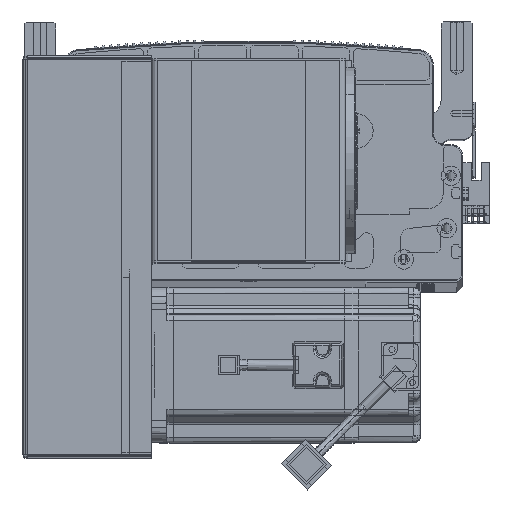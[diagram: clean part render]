
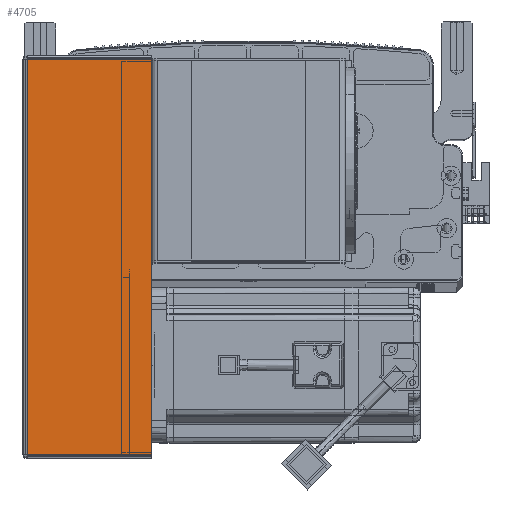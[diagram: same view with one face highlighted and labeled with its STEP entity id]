
A CAD part, top view. The second image highlights one B-rep face of the part: STEP entity #4705.
In plain terms, the highlighted planar face has unit normal (0, 0, 1) as drawn and (0, -1, 0) by its records, which use the part's own axes.
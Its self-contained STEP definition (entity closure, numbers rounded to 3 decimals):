
#4705 = ADVANCED_FACE ( 'NONE', ( #79902 ), #14011, .F. ) ;
#6350 = CARTESIAN_POINT ( 'NONE',  ( 64.5, -1.5, -203.293 ) ) ;
#7840 = VECTOR ( 'NONE', #82776, 1000. ) ;
#9346 = AXIS2_PLACEMENT_3D ( 'NONE', #21590, #81296, #50588 ) ;
#14011 = PLANE ( 'NONE',  #9346 ) ;
#14873 = CARTESIAN_POINT ( 'NONE',  ( 64.5, -1.5, 0. ) ) ;
#16810 = DIRECTION ( 'NONE',  ( 0., 0., 1. ) ) ;
#21590 = CARTESIAN_POINT ( 'NONE',  ( 0., -1.5, 0. ) ) ;
#23402 = ORIENTED_EDGE ( 'NONE', *, *, #33105, .T. ) ;
#23936 = EDGE_LOOP ( 'NONE', ( #65685, #60254, #23402, #79173 ) ) ;
#24358 = CARTESIAN_POINT ( 'NONE',  ( 0.737, -1.5, 0. ) ) ;
#33105 = EDGE_CURVE ( 'NONE', #40129, #86113, #92862, .T. ) ;
#40129 = VERTEX_POINT ( 'NONE', #6350 ) ;
#46189 = VECTOR ( 'NONE', #61890, 1000. ) ;
#46450 = CARTESIAN_POINT ( 'NONE',  ( 0., -1.5, -203.293 ) ) ;
#48212 = VERTEX_POINT ( 'NONE', #75052 ) ;
#48956 = VERTEX_POINT ( 'NONE', #51096 ) ;
#49054 = DIRECTION ( 'NONE',  ( 1., 0., 0. ) ) ;
#50588 = DIRECTION ( 'NONE',  ( -1., 0., 0. ) ) ;
#51096 = CARTESIAN_POINT ( 'NONE',  ( 0.737, -1.5, -203.293 ) ) ;
#54109 = LINE ( 'NONE', #24358, #95365 ) ;
#60254 = ORIENTED_EDGE ( 'NONE', *, *, #61770, .T. ) ;
#61770 = EDGE_CURVE ( 'NONE', #48956, #40129, #91091, .T. ) ;
#61890 = DIRECTION ( 'NONE',  ( 1., 0., 0. ) ) ;
#65685 = ORIENTED_EDGE ( 'NONE', *, *, #88984, .F. ) ;
#68674 = LINE ( 'NONE', #72483, #93493 ) ;
#72483 = CARTESIAN_POINT ( 'NONE',  ( 0., -1.5, -0.707 ) ) ;
#75052 = CARTESIAN_POINT ( 'NONE',  ( 0.737, -1.5, -0.707 ) ) ;
#79173 = ORIENTED_EDGE ( 'NONE', *, *, #86995, .F. ) ;
#79902 = FACE_OUTER_BOUND ( 'NONE', #23936, .T. ) ;
#81296 = DIRECTION ( 'NONE',  ( 0., 1., 0. ) ) ;
#82776 = DIRECTION ( 'NONE',  ( 0., 0., 1. ) ) ;
#82907 = CARTESIAN_POINT ( 'NONE',  ( 64.5, -1.5, -0.707 ) ) ;
#86113 = VERTEX_POINT ( 'NONE', #82907 ) ;
#86995 = EDGE_CURVE ( 'NONE', #48212, #86113, #68674, .T. ) ;
#88984 = EDGE_CURVE ( 'NONE', #48956, #48212, #54109, .T. ) ;
#91091 = LINE ( 'NONE', #46450, #46189 ) ;
#92862 = LINE ( 'NONE', #14873, #7840 ) ;
#93493 = VECTOR ( 'NONE', #49054, 1000. ) ;
#95365 = VECTOR ( 'NONE', #16810, 1000. ) ;
